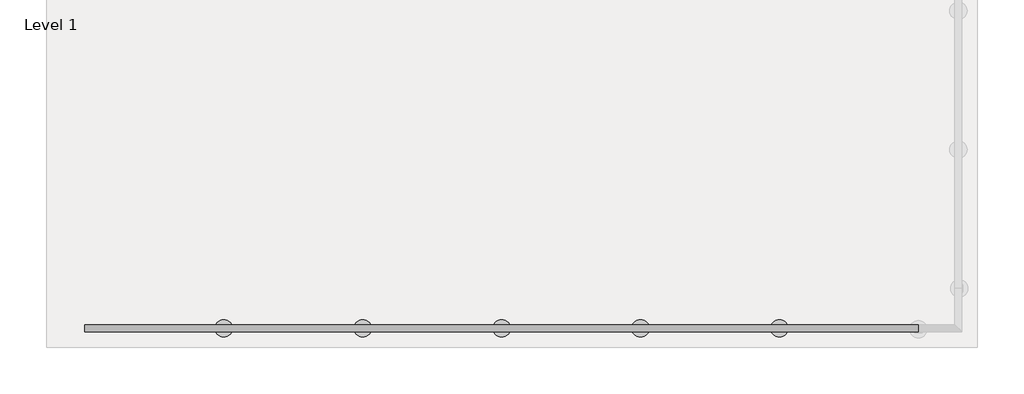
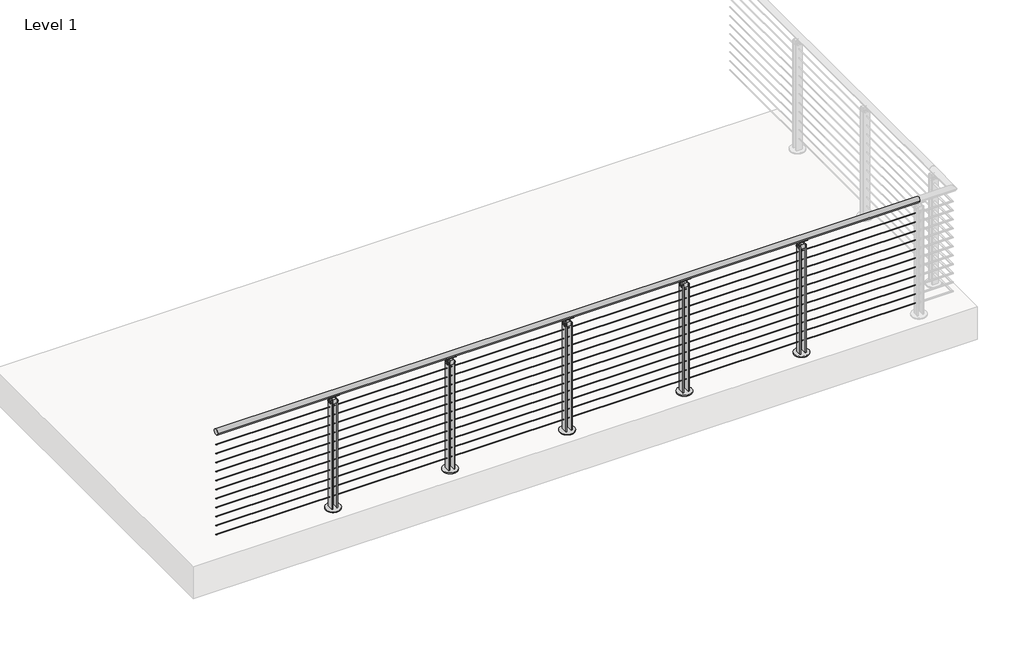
# One storey, part 20 of 36: 1 railing.
"""IFC4 building model written with IfcOpenShell, lengths in millimetres."""

from ifc_helpers import new_model, si_unit, point, frame, frame_2d, origin, origin_with_axes, place, context, project, spatial, polyline, circle_curve, trimmed, segment, composite_curve, outline, extrude, element, save
from ifc_brep_helpers import plane_surface, cylinder_surface, revolved_surface, advanced_brep

model = new_model("IFC4")

# Units and contexts
model_context = context("Model", 3, world=origin())
ifc_project = project(units=[si_unit("LENGTHUNIT", "METRE", prefix="MILLI")], contexts=[model_context])

# Site, building, storey
site = spatial("IfcSite", under=ifc_project)
building = spatial("IfcBuilding", under=site)
storey = spatial("IfcBuildingStorey", under=building, Name="Level 1", Elevation=0.0)

# Railing
placement = place(None, origin())
element("IfcRailing", 1, ObjectType="VIVA-BLADE-Cable-Core Mount-Straight", at=placement, inside=storey, context=model_context, shape_type="SolidModel", body=[
    extrude(outline(composite_curve([segment(trimmed(circle_curve(frame_2d((-57044.7334719, 1054.1)), 25.4), [point((-57070.1334719, 1054.1))], [point((-57019.3334719, 1054.1))], False, "CARTESIAN"), True, "CONTINUOUS"), segment(trimmed(circle_curve(frame_2d((-57044.7334719, 1054.1)), 25.4), [point((-57019.3334719, 1054.1))], [point((-57070.1334719, 1054.1))], False, "CARTESIAN"), True, "CONTINUOUS")], self_intersect=False)), frame((63495.9592968, 0.0, 0.0), z_axis=(1.0, 0.0, 0.0), x_axis=(0.0, 1.0, 0.0)), (0.0, 0.0, 1.0), 6096.0),
    extrude(outline(composite_curve([segment(trimmed(circle_curve(frame_2d((-57044.7334719, 937.4124)), 2.3876), [point((-57042.3458719, 937.4124))], [point((-57047.1210719, 937.4124))], False, "CARTESIAN"), True, "CONTINUOUS"), segment(trimmed(circle_curve(frame_2d((-57044.7334719, 937.4124)), 2.3876), [point((-57047.1210719, 937.4124))], [point((-57042.3458719, 937.4124))], False, "CARTESIAN"), True, "CONTINUOUS")], self_intersect=False)), frame((63495.9592968, 0.0, 0.0), z_axis=(1.0, 0.0, 0.0), x_axis=(0.0, 1.0, 0.0)), (0.0, 0.0, 1.0), 6096.0),
    extrude(outline(composite_curve([segment(trimmed(circle_curve(frame_2d((-57044.7334719, 854.8624)), 2.3876), [point((-57042.3458719, 854.8624))], [point((-57047.1210719, 854.8624))], False, "CARTESIAN"), True, "CONTINUOUS"), segment(trimmed(circle_curve(frame_2d((-57044.7334719, 854.8624)), 2.3876), [point((-57047.1210719, 854.8624))], [point((-57042.3458719, 854.8624))], False, "CARTESIAN"), True, "CONTINUOUS")], self_intersect=False)), frame((63495.9592968, 0.0, 0.0), z_axis=(1.0, 0.0, 0.0), x_axis=(0.0, 1.0, 0.0)), (0.0, 0.0, 1.0), 6096.0),
    extrude(outline(composite_curve([segment(trimmed(circle_curve(frame_2d((-57044.7334719, 772.3124)), 2.3876), [point((-57042.3458719, 772.3124))], [point((-57047.1210719, 772.3124))], False, "CARTESIAN"), True, "CONTINUOUS"), segment(trimmed(circle_curve(frame_2d((-57044.7334719, 772.3124)), 2.3876), [point((-57047.1210719, 772.3124))], [point((-57042.3458719, 772.3124))], False, "CARTESIAN"), True, "CONTINUOUS")], self_intersect=False)), frame((63495.9592968, 0.0, 0.0), z_axis=(1.0, 0.0, 0.0), x_axis=(0.0, 1.0, 0.0)), (0.0, 0.0, 1.0), 6096.0),
    extrude(outline(composite_curve([segment(trimmed(circle_curve(frame_2d((-57044.7334719, 689.7624)), 2.3876), [point((-57042.3458719, 689.7624))], [point((-57047.1210719, 689.7624))], False, "CARTESIAN"), True, "CONTINUOUS"), segment(trimmed(circle_curve(frame_2d((-57044.7334719, 689.7624)), 2.3876), [point((-57047.1210719, 689.7624))], [point((-57042.3458719, 689.7624))], False, "CARTESIAN"), True, "CONTINUOUS")], self_intersect=False)), frame((63495.9592968, 0.0, 0.0), z_axis=(1.0, 0.0, 0.0), x_axis=(0.0, 1.0, 0.0)), (0.0, 0.0, 1.0), 6096.0),
    extrude(outline(composite_curve([segment(trimmed(circle_curve(frame_2d((-57044.7334719, 607.2124)), 2.3876), [point((-57042.3458719, 607.2124))], [point((-57047.1210719, 607.2124))], False, "CARTESIAN"), True, "CONTINUOUS"), segment(trimmed(circle_curve(frame_2d((-57044.7334719, 607.2124)), 2.3876), [point((-57047.1210719, 607.2124))], [point((-57042.3458719, 607.2124))], False, "CARTESIAN"), True, "CONTINUOUS")], self_intersect=False)), frame((63495.9592968, 0.0, 0.0), z_axis=(1.0, 0.0, 0.0), x_axis=(0.0, 1.0, 0.0)), (0.0, 0.0, 1.0), 6096.0),
    extrude(outline(composite_curve([segment(trimmed(circle_curve(frame_2d((-57044.7334719, 524.6624)), 2.3876), [point((-57042.3458719, 524.6624))], [point((-57047.1210719, 524.6624))], False, "CARTESIAN"), True, "CONTINUOUS"), segment(trimmed(circle_curve(frame_2d((-57044.7334719, 524.6624)), 2.3876), [point((-57047.1210719, 524.6624))], [point((-57042.3458719, 524.6624))], False, "CARTESIAN"), True, "CONTINUOUS")], self_intersect=False)), frame((63495.9592968, 0.0, 0.0), z_axis=(1.0, 0.0, 0.0), x_axis=(0.0, 1.0, 0.0)), (0.0, 0.0, 1.0), 6096.0),
    extrude(outline(composite_curve([segment(trimmed(circle_curve(frame_2d((-57044.7334719, 442.1124)), 2.3876), [point((-57042.3458719, 442.1124))], [point((-57047.1210719, 442.1124))], False, "CARTESIAN"), True, "CONTINUOUS"), segment(trimmed(circle_curve(frame_2d((-57044.7334719, 442.1124)), 2.3876), [point((-57047.1210719, 442.1124))], [point((-57042.3458719, 442.1124))], False, "CARTESIAN"), True, "CONTINUOUS")], self_intersect=False)), frame((63495.9592968, 0.0, 0.0), z_axis=(1.0, 0.0, 0.0), x_axis=(0.0, 1.0, 0.0)), (0.0, 0.0, 1.0), 6096.0),
    extrude(outline(composite_curve([segment(trimmed(circle_curve(frame_2d((-57044.7334719, 359.5624)), 2.3876), [point((-57042.3458719, 359.5624))], [point((-57047.1210719, 359.5624))], False, "CARTESIAN"), True, "CONTINUOUS"), segment(trimmed(circle_curve(frame_2d((-57044.7334719, 359.5624)), 2.3876), [point((-57047.1210719, 359.5624))], [point((-57042.3458719, 359.5624))], False, "CARTESIAN"), True, "CONTINUOUS")], self_intersect=False)), frame((63495.9592968, 0.0, 0.0), z_axis=(1.0, 0.0, 0.0), x_axis=(0.0, 1.0, 0.0)), (0.0, 0.0, 1.0), 6096.0),
    extrude(outline(composite_curve([segment(trimmed(circle_curve(frame_2d((-57044.7334719, 277.0124)), 2.3876), [point((-57042.3458719, 277.0124))], [point((-57047.1210719, 277.0124))], False, "CARTESIAN"), True, "CONTINUOUS"), segment(trimmed(circle_curve(frame_2d((-57044.7334719, 277.0124)), 2.3876), [point((-57047.1210719, 277.0124))], [point((-57042.3458719, 277.0124))], False, "CARTESIAN"), True, "CONTINUOUS")], self_intersect=False)), frame((63495.9592968, 0.0, 0.0), z_axis=(1.0, 0.0, 0.0), x_axis=(0.0, 1.0, 0.0)), (0.0, 0.0, 1.0), 6096.0),
    extrude(outline(composite_curve([segment(trimmed(circle_curve(frame_2d((-57044.7334719, 194.4624)), 2.3876), [point((-57042.3458719, 194.4624))], [point((-57047.1210719, 194.4624))], False, "CARTESIAN"), True, "CONTINUOUS"), segment(trimmed(circle_curve(frame_2d((-57044.7334719, 194.4624)), 2.3876), [point((-57047.1210719, 194.4624))], [point((-57042.3458719, 194.4624))], False, "CARTESIAN"), True, "CONTINUOUS")], self_intersect=False)), frame((63495.9592968, 0.0, 0.0), z_axis=(1.0, 0.0, 0.0), x_axis=(0.0, 1.0, 0.0)), (0.0, 0.0, 1.0), 6096.0),
    extrude(outline(composite_curve([segment(trimmed(circle_curve(frame_2d((-57044.7334719, 111.9124)), 2.3876), [point((-57042.3458719, 111.9124))], [point((-57047.1210719, 111.9124))], False, "CARTESIAN"), True, "CONTINUOUS"), segment(trimmed(circle_curve(frame_2d((-57044.7334719, 111.9124)), 2.3876), [point((-57047.1210719, 111.9124))], [point((-57042.3458719, 111.9124))], False, "CARTESIAN"), True, "CONTINUOUS")], self_intersect=False)), frame((63495.9592968, 0.0, 0.0), z_axis=(1.0, 0.0, 0.0), x_axis=(0.0, 1.0, 0.0)), (0.0, 0.0, 1.0), 6096.0),
    extrude(outline(polyline([(68548.8844611, -57019.3336752), (68556.9092968, -57019.3336752), (68556.9092968, -57070.1359998), (68548.8844611, -57070.1359998), (68548.8844611, -57019.3336752)])), frame((0.0, 0.0, -146.05), z_axis=(0.0, 0.0, 1.0), x_axis=(1.0, 0.0, 0.0)), (0.0, 0.0, 1.0), 146.05),
    extrude(outline(polyline([(68595.0092587, -57019.3336752), (68603.0102587, -57019.3336752), (68603.0102587, -57070.1359998), (68595.0092587, -57070.1359998), (68595.0092587, -57019.3336752)])), frame((0.0, 0.0, -146.05), z_axis=(0.0, 0.0, 1.0), x_axis=(1.0, 0.0, 0.0)), (0.0, 0.0, 1.0), 146.05),
    extrude(outline(composite_curve([segment(trimmed(circle_curve(frame_2d((68575.9473599, -57044.7334719)), 63.4988059), [point((68575.9473599, -57108.2322778))], [point((68575.9473599, -56981.2346659))], False, "CARTESIAN"), True, "CONTINUOUS"), segment(trimmed(circle_curve(frame_2d((68575.9473599, -57044.7334719)), 63.4988059), [point((68575.9473599, -56981.2346659))], [point((68575.9473599, -57108.2322778))], False, "CARTESIAN"), True, "CONTINUOUS")], self_intersect=False)), origin_with_axes(), (0.0, 0.0, 1.0), 9.525),
    advanced_brep(
    [(68621.1966968, -57031.9733482, 1032.0967655), (68621.1966968, -57056.8454127, 1031.9535285), (68621.1966968, -57059.6543431, 1027.1267745), (68621.1966968, -57028.1374508, 1027.707533), (68530.7218968, -57031.9733482, 1032.0967655), (68530.7218968, -57028.1374508, 1027.707533), (68530.7218968, -57059.7681364, 1027.1893964), (68530.7218968, -57056.9323849, 1032.0018447)],
    [
        (0, 1, circle_curve(frame((68621.1966968, -57044.5371511, 1054.2115898), z_axis=(-1.0, 0.0, 0.0), x_axis=(0.0, 1.0, 0.0)), 25.4345159)),
        (1, 2, circle_curve(frame((68621.1966968, -57058.177038, 1029.4993599), z_axis=(1.0, 0.0, 0.0), x_axis=(0.0, 1.0, 0.0)), 2.7949225)),
        (2, 3, circle_curve(frame((68621.1966968, -57044.403688, 1054.9742164), z_axis=(1.0, 0.0, 0.0), x_axis=(0.0, 1.0, 0.0)), 31.75)),
        (3, 0, circle_curve(frame((68621.1966968, -57030.4257905, 1029.5784521), z_axis=(1.0, 0.0, 0.0), x_axis=(0.0, 1.0, 0.0)), 2.9558141)),
        (4, 5, circle_curve(frame((68530.7218968, -57030.4257905, 1029.5784521), z_axis=(-1.0, 0.0, 0.0), x_axis=(0.0, 1.0, 0.0)), 2.9558141)),
        (5, 6, circle_curve(frame((68530.7218968, -57044.403688, 1054.9742164), z_axis=(-1.0, 0.0, 0.0), x_axis=(0.0, 1.0, 0.0)), 31.75)),
        (6, 7, circle_curve(frame((68530.7218968, -57058.177038, 1029.4993599), z_axis=(-1.0, 0.0, 0.0), x_axis=(0.0, 1.0, 0.0)), 2.7949225)),
        (7, 4, circle_curve(frame((68530.7218968, -57044.5371511, 1054.2115898), z_axis=(1.0, 0.0, 0.0), x_axis=(0.0, 1.0, 0.0)), 25.4345159)),
        (0, 4),
        (7, 1),
        (6, 2),
        (5, 3),
    ],
    [
        plane_surface(frame((68621.1966968, -57019.1026353, 1054.2115898), z_axis=(1.0, 0.0, 0.0), x_axis=(0.0, 0.0, -1.0))),
        plane_surface(frame((68530.7218968, -57019.1026353, 1054.2115898), z_axis=(-1.0, 0.0, 0.0), x_axis=(0.0, 0.0, 1.0))),
        revolved_surface(polyline([(68530.7218968, -57019.1026352, 1054.2115898), (68621.1966968, -57019.1026352, 1054.2115898)]), (68530.7218968, -57044.5371511, 1054.2115898), (-1.0, 0.0, 0.0)),
        cylinder_surface(frame((68530.7218968, -57058.177038, 1029.4993599), z_axis=(1.0, 0.0, 0.0), x_axis=(0.0, 1.0, 0.0)), 2.7949225),
        cylinder_surface(frame((68530.7218968, -57044.403688, 1054.9742164), z_axis=(1.0, 0.0, 0.0), x_axis=(0.0, 1.0, 0.0)), 31.75),
        cylinder_surface(frame((68530.7218968, -57030.4257905, 1029.5784521), z_axis=(1.0, 0.0, 0.0), x_axis=(0.0, 1.0, 0.0)), 2.9558141),
    ],
    [
        (0, [[1, 2, 3, 4]]),
        (1, [[5, 6, 7, 8]]),
        (2, [[-1, 9, -8, 10]]),
        (3, [[-2, -10, -7, 11]]),
        (4, [[-3, -11, -6, 12]]),
        (5, [[-4, -12, -5, -9]]),
    ],
),
    advanced_brep(
    [(68588.6592968, -57042.1934719, 1014.4125), (68563.2592968, -57042.1934719, 1014.4125), (68548.8913819, -57042.1934719, 1028.7804149), (68603.0272116, -57042.1934719, 1028.7804149), (68588.6592968, -57047.2734719, 1014.4125), (68603.0272116, -57047.2734719, 1028.7804149), (68548.8913819, -57047.2734719, 1028.7804149), (68563.2592968, -57047.2734719, 1014.4125)],
    [
        (0, 1),
        (1, 2, circle_curve(frame((68548.8913819, -57042.1934719, 1014.4125), z_axis=(0.0, -1.0, 0.0), x_axis=(-1.0, 0.0, 0.0)), 14.3679149)),
        (2, 3),
        (3, 0, circle_curve(frame((68603.0272116, -57042.1934719, 1014.4125), z_axis=(0.0, -1.0, 0.0), x_axis=(-1.0, 0.0, 0.0)), 14.3679149)),
        (4, 5, circle_curve(frame((68603.0272116, -57047.2734719, 1014.4125), z_axis=(0.0, 1.0, 0.0), x_axis=(-1.0, 0.0, 0.0)), 14.3679149)),
        (5, 6),
        (6, 7, circle_curve(frame((68548.8913819, -57047.2734719, 1014.4125), z_axis=(0.0, 1.0, 0.0), x_axis=(-1.0, 0.0, 0.0)), 14.3679149)),
        (7, 4),
        (0, 4),
        (7, 1),
        (6, 2),
        (5, 3),
    ],
    [
        plane_surface(frame((68563.2592968, -57042.1934719, 1014.4125), z_axis=(0.0, 1.0, 0.0), x_axis=(-1.0, 0.0, 0.0))),
        plane_surface(frame((68563.2592968, -57047.2734719, 1014.4125), z_axis=(0.0, -1.0, 0.0), x_axis=(1.0, 0.0, 0.0))),
        plane_surface(frame((68588.6592968, -57042.1934719, 1014.4125), z_axis=(0.0, 0.0, -1.0), x_axis=(0.0, -1.0, 0.0))),
        revolved_surface(polyline([(68534.523467, -57047.2734719, 1014.4125), (68534.523467, -57042.1934719, 1014.4125)]), (68548.8913819, -57047.2734719, 1014.4125), (0.0, -1.0, 0.0)),
        plane_surface(frame((68548.8913819, -57042.1934719, 1028.7804149), z_axis=(0.0, 0.0, 1.0), x_axis=(0.0, -1.0, 0.0))),
        revolved_surface(polyline([(68588.6592967, -57047.2734719, 1014.4125), (68588.6592967, -57042.1934719, 1014.4125)]), (68603.0272116, -57047.2734719, 1014.4125), (0.0, -1.0, 0.0)),
    ],
    [
        (0, [[1, 2, 3, 4]]),
        (1, [[5, 6, 7, 8]]),
        (2, [[-1, 9, -8, 10]]),
        (3, [[-2, -10, -7, 11]]),
        (4, [[-3, -11, -6, 12]]),
        (5, [[-4, -12, -5, -9]]),
    ],
),
    extrude(outline(polyline([(68548.8844611, -57019.3336752), (68556.9092968, -57019.3336752), (68556.9092968, -57070.1359998), (68548.8844611, -57070.1359998), (68548.8844611, -57019.3336752)])), origin_with_axes(), (0.0, 0.0, 1.0), 996.95),
    extrude(outline(composite_curve([segment(trimmed(circle_curve(frame_2d((-57057.4359488, 986.0416929)), 8.89), [point((-57066.3259488, 986.0416929))], [point((-57048.5459488, 986.0416929))], False, "CARTESIAN"), True, "CONTINUOUS"), segment(trimmed(circle_curve(frame_2d((-57057.4359488, 986.0416929)), 8.89), [point((-57048.5459488, 986.0416929))], [point((-57066.3259488, 986.0416929))], False, "CARTESIAN"), True, "CONTINUOUS")], self_intersect=False)), frame((68544.2092968, 0.0, 0.0), z_axis=(1.0, 0.0, 0.0), x_axis=(0.0, 1.0, 0.0)), (0.0, 0.0, 1.0), 63.4880631),
    extrude(outline(composite_curve([segment(trimmed(circle_curve(frame_2d((-57032.0360508, 986.0416929)), 8.89), [point((-57040.9260508, 986.0416929))], [point((-57023.1460508, 986.0416929))], False, "CARTESIAN"), True, "CONTINUOUS"), segment(trimmed(circle_curve(frame_2d((-57032.0360508, 986.0416929)), 8.89), [point((-57023.1460508, 986.0416929))], [point((-57040.9260508, 986.0416929))], False, "CARTESIAN"), True, "CONTINUOUS")], self_intersect=False)), frame((68544.2092968, 0.0, 0.0), z_axis=(1.0, 0.0, 0.0), x_axis=(0.0, 1.0, 0.0)), (0.0, 0.0, 1.0), 63.4880631),
    extrude(outline(polyline([(974.7123, 68556.9092968), (974.7123, 68595.0092968), (1008.0625, 68595.0092968), (1014.4125, 68588.6592968), (1014.4125, 68563.2592968), (1008.0625, 68556.9092968), (974.7123, 68556.9092968)])), frame((0.0, -57070.1359998, 0.0), z_axis=(0.0, 1.0, 0.0), x_axis=(0.0, 0.0, 1.0)), (0.0, 0.0, 1.0), 50.8025279),
    extrude(outline(polyline([(68595.0092587, -57019.3336752), (68603.0102587, -57019.3336752), (68603.0102587, -57070.1359998), (68595.0092587, -57070.1359998), (68595.0092587, -57019.3336752)])), origin_with_axes(), (0.0, 0.0, 1.0), 996.95),
    extrude(outline(polyline([(67532.8844611, -57019.3336752), (67540.9092968, -57019.3336752), (67540.9092968, -57070.1359998), (67532.8844611, -57070.1359998), (67532.8844611, -57019.3336752)])), frame((0.0, 0.0, -146.05), z_axis=(0.0, 0.0, 1.0), x_axis=(1.0, 0.0, 0.0)), (0.0, 0.0, 1.0), 146.05),
    extrude(outline(polyline([(67579.0092587, -57019.3336752), (67587.0102587, -57019.3336752), (67587.0102587, -57070.1359998), (67579.0092587, -57070.1359998), (67579.0092587, -57019.3336752)])), frame((0.0, 0.0, -146.05), z_axis=(0.0, 0.0, 1.0), x_axis=(1.0, 0.0, 0.0)), (0.0, 0.0, 1.0), 146.05),
    extrude(outline(composite_curve([segment(trimmed(circle_curve(frame_2d((67559.9473599, -57044.7334719)), 63.4988059), [point((67559.9473599, -57108.2322778))], [point((67559.9473599, -56981.2346659))], False, "CARTESIAN"), True, "CONTINUOUS"), segment(trimmed(circle_curve(frame_2d((67559.9473599, -57044.7334719)), 63.4988059), [point((67559.9473599, -56981.2346659))], [point((67559.9473599, -57108.2322778))], False, "CARTESIAN"), True, "CONTINUOUS")], self_intersect=False)), origin_with_axes(), (0.0, 0.0, 1.0), 9.525),
    advanced_brep(
    [(67605.1966968, -57031.9733482, 1032.0967655), (67605.1966968, -57056.8454127, 1031.9535285), (67605.1966968, -57059.6543431, 1027.1267745), (67605.1966968, -57028.1374508, 1027.707533), (67514.7218968, -57031.9733482, 1032.0967655), (67514.7218968, -57028.1374508, 1027.707533), (67514.7218968, -57059.7681364, 1027.1893964), (67514.7218968, -57056.9323849, 1032.0018447)],
    [
        (0, 1, circle_curve(frame((67605.1966968, -57044.5371511, 1054.2115898), z_axis=(-1.0, 0.0, 0.0), x_axis=(0.0, 1.0, 0.0)), 25.4345159)),
        (1, 2, circle_curve(frame((67605.1966968, -57058.177038, 1029.4993599), z_axis=(1.0, 0.0, 0.0), x_axis=(0.0, 1.0, 0.0)), 2.7949225)),
        (2, 3, circle_curve(frame((67605.1966968, -57044.403688, 1054.9742164), z_axis=(1.0, 0.0, 0.0), x_axis=(0.0, 1.0, 0.0)), 31.75)),
        (3, 0, circle_curve(frame((67605.1966968, -57030.4257905, 1029.5784521), z_axis=(1.0, 0.0, 0.0), x_axis=(0.0, 1.0, 0.0)), 2.9558141)),
        (4, 5, circle_curve(frame((67514.7218968, -57030.4257905, 1029.5784521), z_axis=(-1.0, 0.0, 0.0), x_axis=(0.0, 1.0, 0.0)), 2.9558141)),
        (5, 6, circle_curve(frame((67514.7218968, -57044.403688, 1054.9742164), z_axis=(-1.0, 0.0, 0.0), x_axis=(0.0, 1.0, 0.0)), 31.75)),
        (6, 7, circle_curve(frame((67514.7218968, -57058.177038, 1029.4993599), z_axis=(-1.0, 0.0, 0.0), x_axis=(0.0, 1.0, 0.0)), 2.7949225)),
        (7, 4, circle_curve(frame((67514.7218968, -57044.5371511, 1054.2115898), z_axis=(1.0, 0.0, 0.0), x_axis=(0.0, 1.0, 0.0)), 25.4345159)),
        (0, 4),
        (7, 1),
        (6, 2),
        (5, 3),
    ],
    [
        plane_surface(frame((67605.1966968, -57019.1026353, 1054.2115898), z_axis=(1.0, 0.0, 0.0), x_axis=(0.0, 0.0, -1.0))),
        plane_surface(frame((67514.7218968, -57019.1026353, 1054.2115898), z_axis=(-1.0, 0.0, 0.0), x_axis=(0.0, 0.0, 1.0))),
        revolved_surface(polyline([(67514.7218968, -57019.1026352, 1054.2115898), (67605.1966968, -57019.1026352, 1054.2115898)]), (67514.7218968, -57044.5371511, 1054.2115898), (-1.0, 0.0, 0.0)),
        cylinder_surface(frame((67514.7218968, -57058.177038, 1029.4993599), z_axis=(1.0, 0.0, 0.0), x_axis=(0.0, 1.0, 0.0)), 2.7949225),
        cylinder_surface(frame((67514.7218968, -57044.403688, 1054.9742164), z_axis=(1.0, 0.0, 0.0), x_axis=(0.0, 1.0, 0.0)), 31.75),
        cylinder_surface(frame((67514.7218968, -57030.4257905, 1029.5784521), z_axis=(1.0, 0.0, 0.0), x_axis=(0.0, 1.0, 0.0)), 2.9558141),
    ],
    [
        (0, [[1, 2, 3, 4]]),
        (1, [[5, 6, 7, 8]]),
        (2, [[-1, 9, -8, 10]]),
        (3, [[-2, -10, -7, 11]]),
        (4, [[-3, -11, -6, 12]]),
        (5, [[-4, -12, -5, -9]]),
    ],
),
    advanced_brep(
    [(67572.6592968, -57042.1934719, 1014.4125), (67547.2592968, -57042.1934719, 1014.4125), (67532.8913819, -57042.1934719, 1028.7804149), (67587.0272116, -57042.1934719, 1028.7804149), (67572.6592968, -57047.2734719, 1014.4125), (67587.0272116, -57047.2734719, 1028.7804149), (67532.8913819, -57047.2734719, 1028.7804149), (67547.2592968, -57047.2734719, 1014.4125)],
    [
        (0, 1),
        (1, 2, circle_curve(frame((67532.8913819, -57042.1934719, 1014.4125), z_axis=(0.0, -1.0, 0.0), x_axis=(-1.0, 0.0, 0.0)), 14.3679149)),
        (2, 3),
        (3, 0, circle_curve(frame((67587.0272116, -57042.1934719, 1014.4125), z_axis=(0.0, -1.0, 0.0), x_axis=(-1.0, 0.0, 0.0)), 14.3679149)),
        (4, 5, circle_curve(frame((67587.0272116, -57047.2734719, 1014.4125), z_axis=(0.0, 1.0, 0.0), x_axis=(-1.0, 0.0, 0.0)), 14.3679149)),
        (5, 6),
        (6, 7, circle_curve(frame((67532.8913819, -57047.2734719, 1014.4125), z_axis=(0.0, 1.0, 0.0), x_axis=(-1.0, 0.0, 0.0)), 14.3679149)),
        (7, 4),
        (0, 4),
        (7, 1),
        (6, 2),
        (5, 3),
    ],
    [
        plane_surface(frame((67547.2592968, -57042.1934719, 1014.4125), z_axis=(0.0, 1.0, 0.0), x_axis=(-1.0, 0.0, 0.0))),
        plane_surface(frame((67547.2592968, -57047.2734719, 1014.4125), z_axis=(0.0, -1.0, 0.0), x_axis=(1.0, 0.0, 0.0))),
        plane_surface(frame((67572.6592968, -57042.1934719, 1014.4125), z_axis=(0.0, 0.0, -1.0), x_axis=(0.0, -1.0, 0.0))),
        revolved_surface(polyline([(67518.523467, -57047.2734719, 1014.4125), (67518.523467, -57042.1934719, 1014.4125)]), (67532.8913819, -57047.2734719, 1014.4125), (0.0, -1.0, 0.0)),
        plane_surface(frame((67532.8913819, -57042.1934719, 1028.7804149), z_axis=(0.0, 0.0, 1.0), x_axis=(0.0, -1.0, 0.0))),
        revolved_surface(polyline([(67572.6592967, -57047.2734719, 1014.4125), (67572.6592967, -57042.1934719, 1014.4125)]), (67587.0272116, -57047.2734719, 1014.4125), (0.0, -1.0, 0.0)),
    ],
    [
        (0, [[1, 2, 3, 4]]),
        (1, [[5, 6, 7, 8]]),
        (2, [[-1, 9, -8, 10]]),
        (3, [[-2, -10, -7, 11]]),
        (4, [[-3, -11, -6, 12]]),
        (5, [[-4, -12, -5, -9]]),
    ],
),
    extrude(outline(polyline([(67532.8844611, -57019.3336752), (67540.9092968, -57019.3336752), (67540.9092968, -57070.1359998), (67532.8844611, -57070.1359998), (67532.8844611, -57019.3336752)])), origin_with_axes(), (0.0, 0.0, 1.0), 996.95),
    extrude(outline(composite_curve([segment(trimmed(circle_curve(frame_2d((-57057.4359488, 986.0416929)), 8.89), [point((-57066.3259488, 986.0416929))], [point((-57048.5459488, 986.0416929))], False, "CARTESIAN"), True, "CONTINUOUS"), segment(trimmed(circle_curve(frame_2d((-57057.4359488, 986.0416929)), 8.89), [point((-57048.5459488, 986.0416929))], [point((-57066.3259488, 986.0416929))], False, "CARTESIAN"), True, "CONTINUOUS")], self_intersect=False)), frame((67528.2092968, 0.0, 0.0), z_axis=(1.0, 0.0, 0.0), x_axis=(0.0, 1.0, 0.0)), (0.0, 0.0, 1.0), 63.4880631),
    extrude(outline(composite_curve([segment(trimmed(circle_curve(frame_2d((-57032.0360508, 986.0416929)), 8.89), [point((-57040.9260508, 986.0416929))], [point((-57023.1460508, 986.0416929))], False, "CARTESIAN"), True, "CONTINUOUS"), segment(trimmed(circle_curve(frame_2d((-57032.0360508, 986.0416929)), 8.89), [point((-57023.1460508, 986.0416929))], [point((-57040.9260508, 986.0416929))], False, "CARTESIAN"), True, "CONTINUOUS")], self_intersect=False)), frame((67528.2092968, 0.0, 0.0), z_axis=(1.0, 0.0, 0.0), x_axis=(0.0, 1.0, 0.0)), (0.0, 0.0, 1.0), 63.4880631),
    extrude(outline(polyline([(974.7123, 67540.9092968), (974.7123, 67579.0092968), (1008.0625, 67579.0092968), (1014.4125, 67572.6592968), (1014.4125, 67547.2592968), (1008.0625, 67540.9092968), (974.7123, 67540.9092968)])), frame((0.0, -57070.1359998, 0.0), z_axis=(0.0, 1.0, 0.0), x_axis=(0.0, 0.0, 1.0)), (0.0, 0.0, 1.0), 50.8025279),
    extrude(outline(polyline([(67579.0092587, -57019.3336752), (67587.0102587, -57019.3336752), (67587.0102587, -57070.1359998), (67579.0092587, -57070.1359998), (67579.0092587, -57019.3336752)])), origin_with_axes(), (0.0, 0.0, 1.0), 996.95),
    extrude(outline(polyline([(66516.8844611, -57019.3336752), (66524.9092968, -57019.3336752), (66524.9092968, -57070.1359998), (66516.8844611, -57070.1359998), (66516.8844611, -57019.3336752)])), frame((0.0, 0.0, -146.05), z_axis=(0.0, 0.0, 1.0), x_axis=(1.0, 0.0, 0.0)), (0.0, 0.0, 1.0), 146.05),
    extrude(outline(polyline([(66563.0092587, -57019.3336752), (66571.0102587, -57019.3336752), (66571.0102587, -57070.1359998), (66563.0092587, -57070.1359998), (66563.0092587, -57019.3336752)])), frame((0.0, 0.0, -146.05), z_axis=(0.0, 0.0, 1.0), x_axis=(1.0, 0.0, 0.0)), (0.0, 0.0, 1.0), 146.05),
    extrude(outline(composite_curve([segment(trimmed(circle_curve(frame_2d((66543.9473599, -57044.7334719)), 63.4988059), [point((66543.9473599, -57108.2322778))], [point((66543.9473599, -56981.2346659))], False, "CARTESIAN"), True, "CONTINUOUS"), segment(trimmed(circle_curve(frame_2d((66543.9473599, -57044.7334719)), 63.4988059), [point((66543.9473599, -56981.2346659))], [point((66543.9473599, -57108.2322778))], False, "CARTESIAN"), True, "CONTINUOUS")], self_intersect=False)), origin_with_axes(), (0.0, 0.0, 1.0), 9.525),
    advanced_brep(
    [(66589.1966968, -57031.9733482, 1032.0967655), (66589.1966968, -57056.8454127, 1031.9535285), (66589.1966968, -57059.6543431, 1027.1267745), (66589.1966968, -57028.1374508, 1027.707533), (66498.7218968, -57031.9733482, 1032.0967655), (66498.7218968, -57028.1374508, 1027.707533), (66498.7218968, -57059.7681364, 1027.1893964), (66498.7218968, -57056.9323849, 1032.0018447)],
    [
        (0, 1, circle_curve(frame((66589.1966968, -57044.5371511, 1054.2115898), z_axis=(-1.0, 0.0, 0.0), x_axis=(0.0, 1.0, 0.0)), 25.4345159)),
        (1, 2, circle_curve(frame((66589.1966968, -57058.177038, 1029.4993599), z_axis=(1.0, 0.0, 0.0), x_axis=(0.0, 1.0, 0.0)), 2.7949225)),
        (2, 3, circle_curve(frame((66589.1966968, -57044.403688, 1054.9742164), z_axis=(1.0, 0.0, 0.0), x_axis=(0.0, 1.0, 0.0)), 31.75)),
        (3, 0, circle_curve(frame((66589.1966968, -57030.4257905, 1029.5784521), z_axis=(1.0, 0.0, 0.0), x_axis=(0.0, 1.0, 0.0)), 2.9558141)),
        (4, 5, circle_curve(frame((66498.7218968, -57030.4257905, 1029.5784521), z_axis=(-1.0, 0.0, 0.0), x_axis=(0.0, 1.0, 0.0)), 2.9558141)),
        (5, 6, circle_curve(frame((66498.7218968, -57044.403688, 1054.9742164), z_axis=(-1.0, 0.0, 0.0), x_axis=(0.0, 1.0, 0.0)), 31.75)),
        (6, 7, circle_curve(frame((66498.7218968, -57058.177038, 1029.4993599), z_axis=(-1.0, 0.0, 0.0), x_axis=(0.0, 1.0, 0.0)), 2.7949225)),
        (7, 4, circle_curve(frame((66498.7218968, -57044.5371511, 1054.2115898), z_axis=(1.0, 0.0, 0.0), x_axis=(0.0, 1.0, 0.0)), 25.4345159)),
        (0, 4),
        (7, 1),
        (6, 2),
        (5, 3),
    ],
    [
        plane_surface(frame((66589.1966968, -57019.1026353, 1054.2115898), z_axis=(1.0, 0.0, 0.0), x_axis=(0.0, 0.0, -1.0))),
        plane_surface(frame((66498.7218968, -57019.1026353, 1054.2115898), z_axis=(-1.0, 0.0, 0.0), x_axis=(0.0, 0.0, 1.0))),
        revolved_surface(polyline([(66498.7218968, -57019.1026352, 1054.2115898), (66589.1966968, -57019.1026352, 1054.2115898)]), (66498.7218968, -57044.5371511, 1054.2115898), (-1.0, 0.0, 0.0)),
        cylinder_surface(frame((66498.7218968, -57058.177038, 1029.4993599), z_axis=(1.0, 0.0, 0.0), x_axis=(0.0, 1.0, 0.0)), 2.7949225),
        cylinder_surface(frame((66498.7218968, -57044.403688, 1054.9742164), z_axis=(1.0, 0.0, 0.0), x_axis=(0.0, 1.0, 0.0)), 31.75),
        cylinder_surface(frame((66498.7218968, -57030.4257905, 1029.5784521), z_axis=(1.0, 0.0, 0.0), x_axis=(0.0, 1.0, 0.0)), 2.9558141),
    ],
    [
        (0, [[1, 2, 3, 4]]),
        (1, [[5, 6, 7, 8]]),
        (2, [[-1, 9, -8, 10]]),
        (3, [[-2, -10, -7, 11]]),
        (4, [[-3, -11, -6, 12]]),
        (5, [[-4, -12, -5, -9]]),
    ],
),
    advanced_brep(
    [(66556.6592968, -57042.1934719, 1014.4125), (66531.2592968, -57042.1934719, 1014.4125), (66516.8913819, -57042.1934719, 1028.7804149), (66571.0272116, -57042.1934719, 1028.7804149), (66556.6592968, -57047.2734719, 1014.4125), (66571.0272116, -57047.2734719, 1028.7804149), (66516.8913819, -57047.2734719, 1028.7804149), (66531.2592968, -57047.2734719, 1014.4125)],
    [
        (0, 1),
        (1, 2, circle_curve(frame((66516.8913819, -57042.1934719, 1014.4125), z_axis=(0.0, -1.0, 0.0), x_axis=(-1.0, 0.0, 0.0)), 14.3679149)),
        (2, 3),
        (3, 0, circle_curve(frame((66571.0272116, -57042.1934719, 1014.4125), z_axis=(0.0, -1.0, 0.0), x_axis=(-1.0, 0.0, 0.0)), 14.3679149)),
        (4, 5, circle_curve(frame((66571.0272116, -57047.2734719, 1014.4125), z_axis=(0.0, 1.0, 0.0), x_axis=(-1.0, 0.0, 0.0)), 14.3679149)),
        (5, 6),
        (6, 7, circle_curve(frame((66516.8913819, -57047.2734719, 1014.4125), z_axis=(0.0, 1.0, 0.0), x_axis=(-1.0, 0.0, 0.0)), 14.3679149)),
        (7, 4),
        (0, 4),
        (7, 1),
        (6, 2),
        (5, 3),
    ],
    [
        plane_surface(frame((66531.2592968, -57042.1934719, 1014.4125), z_axis=(0.0, 1.0, 0.0), x_axis=(-1.0, 0.0, 0.0))),
        plane_surface(frame((66531.2592968, -57047.2734719, 1014.4125), z_axis=(0.0, -1.0, 0.0), x_axis=(1.0, 0.0, 0.0))),
        plane_surface(frame((66556.6592968, -57042.1934719, 1014.4125), z_axis=(0.0, 0.0, -1.0), x_axis=(0.0, -1.0, 0.0))),
        revolved_surface(polyline([(66502.523467, -57047.2734719, 1014.4125), (66502.523467, -57042.1934719, 1014.4125)]), (66516.8913819, -57047.2734719, 1014.4125), (0.0, -1.0, 0.0)),
        plane_surface(frame((66516.8913819, -57042.1934719, 1028.7804149), z_axis=(0.0, 0.0, 1.0), x_axis=(0.0, -1.0, 0.0))),
        revolved_surface(polyline([(66556.6592967, -57047.2734719, 1014.4125), (66556.6592967, -57042.1934719, 1014.4125)]), (66571.0272116, -57047.2734719, 1014.4125), (0.0, -1.0, 0.0)),
    ],
    [
        (0, [[1, 2, 3, 4]]),
        (1, [[5, 6, 7, 8]]),
        (2, [[-1, 9, -8, 10]]),
        (3, [[-2, -10, -7, 11]]),
        (4, [[-3, -11, -6, 12]]),
        (5, [[-4, -12, -5, -9]]),
    ],
),
    extrude(outline(polyline([(66516.8844611, -57019.3336752), (66524.9092968, -57019.3336752), (66524.9092968, -57070.1359998), (66516.8844611, -57070.1359998), (66516.8844611, -57019.3336752)])), origin_with_axes(), (0.0, 0.0, 1.0), 996.95),
    extrude(outline(composite_curve([segment(trimmed(circle_curve(frame_2d((-57057.4359488, 986.0416929)), 8.89), [point((-57066.3259488, 986.0416929))], [point((-57048.5459488, 986.0416929))], False, "CARTESIAN"), True, "CONTINUOUS"), segment(trimmed(circle_curve(frame_2d((-57057.4359488, 986.0416929)), 8.89), [point((-57048.5459488, 986.0416929))], [point((-57066.3259488, 986.0416929))], False, "CARTESIAN"), True, "CONTINUOUS")], self_intersect=False)), frame((66512.2092968, 0.0, 0.0), z_axis=(1.0, 0.0, 0.0), x_axis=(0.0, 1.0, 0.0)), (0.0, 0.0, 1.0), 63.4880631),
    extrude(outline(composite_curve([segment(trimmed(circle_curve(frame_2d((-57032.0360508, 986.0416929)), 8.89), [point((-57040.9260508, 986.0416929))], [point((-57023.1460508, 986.0416929))], False, "CARTESIAN"), True, "CONTINUOUS"), segment(trimmed(circle_curve(frame_2d((-57032.0360508, 986.0416929)), 8.89), [point((-57023.1460508, 986.0416929))], [point((-57040.9260508, 986.0416929))], False, "CARTESIAN"), True, "CONTINUOUS")], self_intersect=False)), frame((66512.2092968, 0.0, 0.0), z_axis=(1.0, 0.0, 0.0), x_axis=(0.0, 1.0, 0.0)), (0.0, 0.0, 1.0), 63.4880631),
    extrude(outline(polyline([(974.7123, 66524.9092968), (974.7123, 66563.0092968), (1008.0625, 66563.0092968), (1014.4125, 66556.6592968), (1014.4125, 66531.2592968), (1008.0625, 66524.9092968), (974.7123, 66524.9092968)])), frame((0.0, -57070.1359998, 0.0), z_axis=(0.0, 1.0, 0.0), x_axis=(0.0, 0.0, 1.0)), (0.0, 0.0, 1.0), 50.8025279),
    extrude(outline(polyline([(66563.0092587, -57019.3336752), (66571.0102587, -57019.3336752), (66571.0102587, -57070.1359998), (66563.0092587, -57070.1359998), (66563.0092587, -57019.3336752)])), origin_with_axes(), (0.0, 0.0, 1.0), 996.95),
    extrude(outline(polyline([(65500.8844611, -57019.3336752), (65508.9092968, -57019.3336752), (65508.9092968, -57070.1359998), (65500.8844611, -57070.1359998), (65500.8844611, -57019.3336752)])), frame((0.0, 0.0, -146.05), z_axis=(0.0, 0.0, 1.0), x_axis=(1.0, 0.0, 0.0)), (0.0, 0.0, 1.0), 146.05),
    extrude(outline(polyline([(65547.0092587, -57019.3336752), (65555.0102587, -57019.3336752), (65555.0102587, -57070.1359998), (65547.0092587, -57070.1359998), (65547.0092587, -57019.3336752)])), frame((0.0, 0.0, -146.05), z_axis=(0.0, 0.0, 1.0), x_axis=(1.0, 0.0, 0.0)), (0.0, 0.0, 1.0), 146.05),
    extrude(outline(composite_curve([segment(trimmed(circle_curve(frame_2d((65527.9473599, -57044.7334719)), 63.4988059), [point((65527.9473599, -57108.2322778))], [point((65527.9473599, -56981.2346659))], False, "CARTESIAN"), True, "CONTINUOUS"), segment(trimmed(circle_curve(frame_2d((65527.9473599, -57044.7334719)), 63.4988059), [point((65527.9473599, -56981.2346659))], [point((65527.9473599, -57108.2322778))], False, "CARTESIAN"), True, "CONTINUOUS")], self_intersect=False)), origin_with_axes(), (0.0, 0.0, 1.0), 9.525),
    advanced_brep(
    [(65573.1966968, -57031.9733482, 1032.0967655), (65573.1966968, -57056.8454127, 1031.9535285), (65573.1966968, -57059.6543431, 1027.1267745), (65573.1966968, -57028.1374508, 1027.707533), (65482.7218968, -57031.9733482, 1032.0967655), (65482.7218968, -57028.1374508, 1027.707533), (65482.7218968, -57059.7681364, 1027.1893964), (65482.7218968, -57056.9323849, 1032.0018447)],
    [
        (0, 1, circle_curve(frame((65573.1966968, -57044.5371511, 1054.2115898), z_axis=(-1.0, 0.0, 0.0), x_axis=(0.0, 1.0, 0.0)), 25.4345159)),
        (1, 2, circle_curve(frame((65573.1966968, -57058.177038, 1029.4993599), z_axis=(1.0, 0.0, 0.0), x_axis=(0.0, 1.0, 0.0)), 2.7949225)),
        (2, 3, circle_curve(frame((65573.1966968, -57044.403688, 1054.9742164), z_axis=(1.0, 0.0, 0.0), x_axis=(0.0, 1.0, 0.0)), 31.75)),
        (3, 0, circle_curve(frame((65573.1966968, -57030.4257905, 1029.5784521), z_axis=(1.0, 0.0, 0.0), x_axis=(0.0, 1.0, 0.0)), 2.9558141)),
        (4, 5, circle_curve(frame((65482.7218968, -57030.4257905, 1029.5784521), z_axis=(-1.0, 0.0, 0.0), x_axis=(0.0, 1.0, 0.0)), 2.9558141)),
        (5, 6, circle_curve(frame((65482.7218968, -57044.403688, 1054.9742164), z_axis=(-1.0, 0.0, 0.0), x_axis=(0.0, 1.0, 0.0)), 31.75)),
        (6, 7, circle_curve(frame((65482.7218968, -57058.177038, 1029.4993599), z_axis=(-1.0, 0.0, 0.0), x_axis=(0.0, 1.0, 0.0)), 2.7949225)),
        (7, 4, circle_curve(frame((65482.7218968, -57044.5371511, 1054.2115898), z_axis=(1.0, 0.0, 0.0), x_axis=(0.0, 1.0, 0.0)), 25.4345159)),
        (0, 4),
        (7, 1),
        (6, 2),
        (5, 3),
    ],
    [
        plane_surface(frame((65573.1966968, -57019.1026353, 1054.2115898), z_axis=(1.0, 0.0, 0.0), x_axis=(0.0, 0.0, -1.0))),
        plane_surface(frame((65482.7218968, -57019.1026353, 1054.2115898), z_axis=(-1.0, 0.0, 0.0), x_axis=(0.0, 0.0, 1.0))),
        revolved_surface(polyline([(65482.7218968, -57019.1026352, 1054.2115898), (65573.1966968, -57019.1026352, 1054.2115898)]), (65482.7218968, -57044.5371511, 1054.2115898), (-1.0, 0.0, 0.0)),
        cylinder_surface(frame((65482.7218968, -57058.177038, 1029.4993599), z_axis=(1.0, 0.0, 0.0), x_axis=(0.0, 1.0, 0.0)), 2.7949225),
        cylinder_surface(frame((65482.7218968, -57044.403688, 1054.9742164), z_axis=(1.0, 0.0, 0.0), x_axis=(0.0, 1.0, 0.0)), 31.75),
        cylinder_surface(frame((65482.7218968, -57030.4257905, 1029.5784521), z_axis=(1.0, 0.0, 0.0), x_axis=(0.0, 1.0, 0.0)), 2.9558141),
    ],
    [
        (0, [[1, 2, 3, 4]]),
        (1, [[5, 6, 7, 8]]),
        (2, [[-1, 9, -8, 10]]),
        (3, [[-2, -10, -7, 11]]),
        (4, [[-3, -11, -6, 12]]),
        (5, [[-4, -12, -5, -9]]),
    ],
),
    advanced_brep(
    [(65540.6592968, -57042.1934719, 1014.4125), (65515.2592968, -57042.1934719, 1014.4125), (65500.8913819, -57042.1934719, 1028.7804149), (65555.0272116, -57042.1934719, 1028.7804149), (65540.6592968, -57047.2734719, 1014.4125), (65555.0272116, -57047.2734719, 1028.7804149), (65500.8913819, -57047.2734719, 1028.7804149), (65515.2592968, -57047.2734719, 1014.4125)],
    [
        (0, 1),
        (1, 2, circle_curve(frame((65500.8913819, -57042.1934719, 1014.4125), z_axis=(0.0, -1.0, 0.0), x_axis=(-1.0, 0.0, 0.0)), 14.3679149)),
        (2, 3),
        (3, 0, circle_curve(frame((65555.0272116, -57042.1934719, 1014.4125), z_axis=(0.0, -1.0, 0.0), x_axis=(-1.0, 0.0, 0.0)), 14.3679149)),
        (4, 5, circle_curve(frame((65555.0272116, -57047.2734719, 1014.4125), z_axis=(0.0, 1.0, 0.0), x_axis=(-1.0, 0.0, 0.0)), 14.3679149)),
        (5, 6),
        (6, 7, circle_curve(frame((65500.8913819, -57047.2734719, 1014.4125), z_axis=(0.0, 1.0, 0.0), x_axis=(-1.0, 0.0, 0.0)), 14.3679149)),
        (7, 4),
        (0, 4),
        (7, 1),
        (6, 2),
        (5, 3),
    ],
    [
        plane_surface(frame((65515.2592968, -57042.1934719, 1014.4125), z_axis=(0.0, 1.0, 0.0), x_axis=(-1.0, 0.0, 0.0))),
        plane_surface(frame((65515.2592968, -57047.2734719, 1014.4125), z_axis=(0.0, -1.0, 0.0), x_axis=(1.0, 0.0, 0.0))),
        plane_surface(frame((65540.6592968, -57042.1934719, 1014.4125), z_axis=(0.0, 0.0, -1.0), x_axis=(0.0, -1.0, 0.0))),
        revolved_surface(polyline([(65486.523467, -57047.2734719, 1014.4125), (65486.523467, -57042.1934719, 1014.4125)]), (65500.8913819, -57047.2734719, 1014.4125), (0.0, -1.0, 0.0)),
        plane_surface(frame((65500.8913819, -57042.1934719, 1028.7804149), z_axis=(0.0, 0.0, 1.0), x_axis=(0.0, -1.0, 0.0))),
        revolved_surface(polyline([(65540.6592967, -57047.2734719, 1014.4125), (65540.6592967, -57042.1934719, 1014.4125)]), (65555.0272116, -57047.2734719, 1014.4125), (0.0, -1.0, 0.0)),
    ],
    [
        (0, [[1, 2, 3, 4]]),
        (1, [[5, 6, 7, 8]]),
        (2, [[-1, 9, -8, 10]]),
        (3, [[-2, -10, -7, 11]]),
        (4, [[-3, -11, -6, 12]]),
        (5, [[-4, -12, -5, -9]]),
    ],
),
    extrude(outline(polyline([(65500.8844611, -57019.3336752), (65508.9092968, -57019.3336752), (65508.9092968, -57070.1359998), (65500.8844611, -57070.1359998), (65500.8844611, -57019.3336752)])), origin_with_axes(), (0.0, 0.0, 1.0), 996.95),
    extrude(outline(composite_curve([segment(trimmed(circle_curve(frame_2d((-57057.4359488, 986.0416929)), 8.89), [point((-57066.3259488, 986.0416929))], [point((-57048.5459488, 986.0416929))], False, "CARTESIAN"), True, "CONTINUOUS"), segment(trimmed(circle_curve(frame_2d((-57057.4359488, 986.0416929)), 8.89), [point((-57048.5459488, 986.0416929))], [point((-57066.3259488, 986.0416929))], False, "CARTESIAN"), True, "CONTINUOUS")], self_intersect=False)), frame((65496.2092968, 0.0, 0.0), z_axis=(1.0, 0.0, 0.0), x_axis=(0.0, 1.0, 0.0)), (0.0, 0.0, 1.0), 63.4880631),
    extrude(outline(composite_curve([segment(trimmed(circle_curve(frame_2d((-57032.0360508, 986.0416929)), 8.89), [point((-57040.9260508, 986.0416929))], [point((-57023.1460508, 986.0416929))], False, "CARTESIAN"), True, "CONTINUOUS"), segment(trimmed(circle_curve(frame_2d((-57032.0360508, 986.0416929)), 8.89), [point((-57023.1460508, 986.0416929))], [point((-57040.9260508, 986.0416929))], False, "CARTESIAN"), True, "CONTINUOUS")], self_intersect=False)), frame((65496.2092968, 0.0, 0.0), z_axis=(1.0, 0.0, 0.0), x_axis=(0.0, 1.0, 0.0)), (0.0, 0.0, 1.0), 63.4880631),
    extrude(outline(polyline([(974.7123, 65508.9092968), (974.7123, 65547.0092968), (1008.0625, 65547.0092968), (1014.4125, 65540.6592968), (1014.4125, 65515.2592968), (1008.0625, 65508.9092968), (974.7123, 65508.9092968)])), frame((0.0, -57070.1359998, 0.0), z_axis=(0.0, 1.0, 0.0), x_axis=(0.0, 0.0, 1.0)), (0.0, 0.0, 1.0), 50.8025279),
    extrude(outline(polyline([(65547.0092587, -57019.3336752), (65555.0102587, -57019.3336752), (65555.0102587, -57070.1359998), (65547.0092587, -57070.1359998), (65547.0092587, -57019.3336752)])), origin_with_axes(), (0.0, 0.0, 1.0), 996.95),
    extrude(outline(polyline([(64484.8844611, -57019.3336752), (64492.9092968, -57019.3336752), (64492.9092968, -57070.1359998), (64484.8844611, -57070.1359998), (64484.8844611, -57019.3336752)])), frame((0.0, 0.0, -146.05), z_axis=(0.0, 0.0, 1.0), x_axis=(1.0, 0.0, 0.0)), (0.0, 0.0, 1.0), 146.05),
    extrude(outline(polyline([(64531.0092587, -57019.3336752), (64539.0102587, -57019.3336752), (64539.0102587, -57070.1359998), (64531.0092587, -57070.1359998), (64531.0092587, -57019.3336752)])), frame((0.0, 0.0, -146.05), z_axis=(0.0, 0.0, 1.0), x_axis=(1.0, 0.0, 0.0)), (0.0, 0.0, 1.0), 146.05),
    extrude(outline(composite_curve([segment(trimmed(circle_curve(frame_2d((64511.9473599, -57044.7334719)), 63.4988059), [point((64511.9473599, -57108.2322778))], [point((64511.9473599, -56981.2346659))], False, "CARTESIAN"), True, "CONTINUOUS"), segment(trimmed(circle_curve(frame_2d((64511.9473599, -57044.7334719)), 63.4988059), [point((64511.9473599, -56981.2346659))], [point((64511.9473599, -57108.2322778))], False, "CARTESIAN"), True, "CONTINUOUS")], self_intersect=False)), origin_with_axes(), (0.0, 0.0, 1.0), 9.525),
    advanced_brep(
    [(64557.1966968, -57031.9733482, 1032.0967655), (64557.1966968, -57056.8454127, 1031.9535285), (64557.1966968, -57059.6543431, 1027.1267745), (64557.1966968, -57028.1374508, 1027.707533), (64466.7218968, -57031.9733482, 1032.0967655), (64466.7218968, -57028.1374508, 1027.707533), (64466.7218968, -57059.7681364, 1027.1893964), (64466.7218968, -57056.9323849, 1032.0018447)],
    [
        (0, 1, circle_curve(frame((64557.1966968, -57044.5371511, 1054.2115898), z_axis=(-1.0, 0.0, 0.0), x_axis=(0.0, 1.0, 0.0)), 25.4345159)),
        (1, 2, circle_curve(frame((64557.1966968, -57058.177038, 1029.4993599), z_axis=(1.0, 0.0, 0.0), x_axis=(0.0, 1.0, 0.0)), 2.7949225)),
        (2, 3, circle_curve(frame((64557.1966968, -57044.403688, 1054.9742164), z_axis=(1.0, 0.0, 0.0), x_axis=(0.0, 1.0, 0.0)), 31.75)),
        (3, 0, circle_curve(frame((64557.1966968, -57030.4257905, 1029.5784521), z_axis=(1.0, 0.0, 0.0), x_axis=(0.0, 1.0, 0.0)), 2.9558141)),
        (4, 5, circle_curve(frame((64466.7218968, -57030.4257905, 1029.5784521), z_axis=(-1.0, 0.0, 0.0), x_axis=(0.0, 1.0, 0.0)), 2.9558141)),
        (5, 6, circle_curve(frame((64466.7218968, -57044.403688, 1054.9742164), z_axis=(-1.0, 0.0, 0.0), x_axis=(0.0, 1.0, 0.0)), 31.75)),
        (6, 7, circle_curve(frame((64466.7218968, -57058.177038, 1029.4993599), z_axis=(-1.0, 0.0, 0.0), x_axis=(0.0, 1.0, 0.0)), 2.7949225)),
        (7, 4, circle_curve(frame((64466.7218968, -57044.5371511, 1054.2115898), z_axis=(1.0, 0.0, 0.0), x_axis=(0.0, 1.0, 0.0)), 25.4345159)),
        (0, 4),
        (7, 1),
        (6, 2),
        (5, 3),
    ],
    [
        plane_surface(frame((64557.1966968, -57019.1026353, 1054.2115898), z_axis=(1.0, 0.0, 0.0), x_axis=(0.0, 0.0, -1.0))),
        plane_surface(frame((64466.7218968, -57019.1026353, 1054.2115898), z_axis=(-1.0, 0.0, 0.0), x_axis=(0.0, 0.0, 1.0))),
        revolved_surface(polyline([(64466.7218968, -57019.1026352, 1054.2115898), (64557.1966968, -57019.1026352, 1054.2115898)]), (64466.7218968, -57044.5371511, 1054.2115898), (-1.0, 0.0, 0.0)),
        cylinder_surface(frame((64466.7218968, -57058.177038, 1029.4993599), z_axis=(1.0, 0.0, 0.0), x_axis=(0.0, 1.0, 0.0)), 2.7949225),
        cylinder_surface(frame((64466.7218968, -57044.403688, 1054.9742164), z_axis=(1.0, 0.0, 0.0), x_axis=(0.0, 1.0, 0.0)), 31.75),
        cylinder_surface(frame((64466.7218968, -57030.4257905, 1029.5784521), z_axis=(1.0, 0.0, 0.0), x_axis=(0.0, 1.0, 0.0)), 2.9558141),
    ],
    [
        (0, [[1, 2, 3, 4]]),
        (1, [[5, 6, 7, 8]]),
        (2, [[-1, 9, -8, 10]]),
        (3, [[-2, -10, -7, 11]]),
        (4, [[-3, -11, -6, 12]]),
        (5, [[-4, -12, -5, -9]]),
    ],
),
    advanced_brep(
    [(64524.6592968, -57042.1934719, 1014.4125), (64499.2592968, -57042.1934719, 1014.4125), (64484.8913819, -57042.1934719, 1028.7804149), (64539.0272116, -57042.1934719, 1028.7804149), (64524.6592968, -57047.2734719, 1014.4125), (64539.0272116, -57047.2734719, 1028.7804149), (64484.8913819, -57047.2734719, 1028.7804149), (64499.2592968, -57047.2734719, 1014.4125)],
    [
        (0, 1),
        (1, 2, circle_curve(frame((64484.8913819, -57042.1934719, 1014.4125), z_axis=(0.0, -1.0, 0.0), x_axis=(-1.0, 0.0, 0.0)), 14.3679149)),
        (2, 3),
        (3, 0, circle_curve(frame((64539.0272116, -57042.1934719, 1014.4125), z_axis=(0.0, -1.0, 0.0), x_axis=(-1.0, 0.0, 0.0)), 14.3679149)),
        (4, 5, circle_curve(frame((64539.0272116, -57047.2734719, 1014.4125), z_axis=(0.0, 1.0, 0.0), x_axis=(-1.0, 0.0, 0.0)), 14.3679149)),
        (5, 6),
        (6, 7, circle_curve(frame((64484.8913819, -57047.2734719, 1014.4125), z_axis=(0.0, 1.0, 0.0), x_axis=(-1.0, 0.0, 0.0)), 14.3679149)),
        (7, 4),
        (0, 4),
        (7, 1),
        (6, 2),
        (5, 3),
    ],
    [
        plane_surface(frame((64499.2592968, -57042.1934719, 1014.4125), z_axis=(0.0, 1.0, 0.0), x_axis=(-1.0, 0.0, 0.0))),
        plane_surface(frame((64499.2592968, -57047.2734719, 1014.4125), z_axis=(0.0, -1.0, 0.0), x_axis=(1.0, 0.0, 0.0))),
        plane_surface(frame((64524.6592968, -57042.1934719, 1014.4125), z_axis=(0.0, 0.0, -1.0), x_axis=(0.0, -1.0, 0.0))),
        revolved_surface(polyline([(64470.523467, -57047.2734719, 1014.4125), (64470.523467, -57042.1934719, 1014.4125)]), (64484.8913819, -57047.2734719, 1014.4125), (0.0, -1.0, 0.0)),
        plane_surface(frame((64484.8913819, -57042.1934719, 1028.7804149), z_axis=(0.0, 0.0, 1.0), x_axis=(0.0, -1.0, 0.0))),
        revolved_surface(polyline([(64524.659296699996, -57047.2734719, 1014.4125), (64524.659296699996, -57042.1934719, 1014.4125)]), (64539.0272116, -57047.2734719, 1014.4125), (0.0, -1.0, 0.0)),
    ],
    [
        (0, [[1, 2, 3, 4]]),
        (1, [[5, 6, 7, 8]]),
        (2, [[-1, 9, -8, 10]]),
        (3, [[-2, -10, -7, 11]]),
        (4, [[-3, -11, -6, 12]]),
        (5, [[-4, -12, -5, -9]]),
    ],
),
    extrude(outline(polyline([(64484.8844611, -57019.3336752), (64492.9092968, -57019.3336752), (64492.9092968, -57070.1359998), (64484.8844611, -57070.1359998), (64484.8844611, -57019.3336752)])), origin_with_axes(), (0.0, 0.0, 1.0), 996.95),
    extrude(outline(composite_curve([segment(trimmed(circle_curve(frame_2d((-57057.4359488, 986.0416929)), 8.89), [point((-57066.3259488, 986.0416929))], [point((-57048.5459488, 986.0416929))], False, "CARTESIAN"), True, "CONTINUOUS"), segment(trimmed(circle_curve(frame_2d((-57057.4359488, 986.0416929)), 8.89), [point((-57048.5459488, 986.0416929))], [point((-57066.3259488, 986.0416929))], False, "CARTESIAN"), True, "CONTINUOUS")], self_intersect=False)), frame((64480.2092968, 0.0, 0.0), z_axis=(1.0, 0.0, 0.0), x_axis=(0.0, 1.0, 0.0)), (0.0, 0.0, 1.0), 63.4880631),
    extrude(outline(composite_curve([segment(trimmed(circle_curve(frame_2d((-57032.0360508, 986.0416929)), 8.89), [point((-57040.9260508, 986.0416929))], [point((-57023.1460508, 986.0416929))], False, "CARTESIAN"), True, "CONTINUOUS"), segment(trimmed(circle_curve(frame_2d((-57032.0360508, 986.0416929)), 8.89), [point((-57023.1460508, 986.0416929))], [point((-57040.9260508, 986.0416929))], False, "CARTESIAN"), True, "CONTINUOUS")], self_intersect=False)), frame((64480.2092968, 0.0, 0.0), z_axis=(1.0, 0.0, 0.0), x_axis=(0.0, 1.0, 0.0)), (0.0, 0.0, 1.0), 63.4880631),
    extrude(outline(polyline([(974.7123, 64492.9092968), (974.7123, 64531.0092968), (1008.0625, 64531.0092968), (1014.4125, 64524.6592968), (1014.4125, 64499.2592968), (1008.0625, 64492.9092968), (974.7123, 64492.9092968)])), frame((0.0, -57070.1359998, 0.0), z_axis=(0.0, 1.0, 0.0), x_axis=(0.0, 0.0, 1.0)), (0.0, 0.0, 1.0), 50.8025279),
    extrude(outline(polyline([(64531.0092587, -57019.3336752), (64539.0102587, -57019.3336752), (64539.0102587, -57070.1359998), (64531.0092587, -57070.1359998), (64531.0092587, -57019.3336752)])), origin_with_axes(), (0.0, 0.0, 1.0), 996.95),
])

save(model, "model.ifc")
